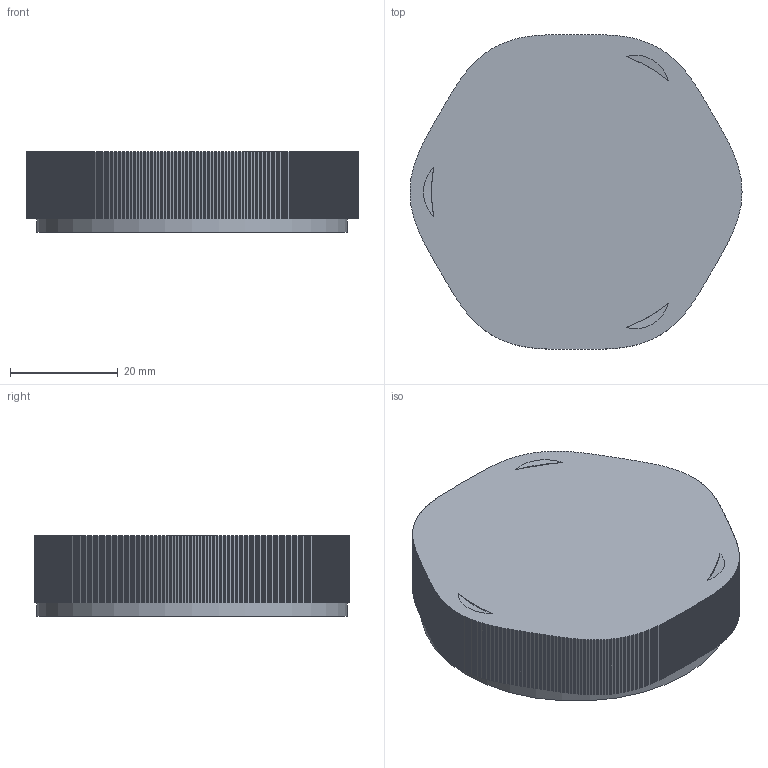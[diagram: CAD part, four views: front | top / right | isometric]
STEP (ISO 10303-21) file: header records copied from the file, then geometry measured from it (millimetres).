
FILE_DESCRIPTION(('Open CASCADE Model'),'2;1');
FILE_NAME('Open CASCADE Shape Model','2026-11-13T05:00:00',('Author'),( 'Open CASCADE'),'Open CASCADE STEP processor 7.9','Open CASCADE 7.9' ,'Unknown');
FILE_SCHEMA(('AUTOMOTIVE_DESIGN { 1 0 10303 214 1 1 1 1 }'));
Length unit declared in the file: millimetre
Products named in the file (1): Open CASCADE STEP translator 7.9 12
Bounding box: 61.6 x 58.4 x 15 mm (x, y, z)
Volume: 13996.9 mm3; surface area: 10954.8 mm2
Topology: 1 solids, 1 shells, 748 faces, 2214 edges, 1476 vertices
Faces by surface type: plane 735, cylinder 10, sphere 3
Full cylindrical faces by diameter (mm): 50 x1, 51.95 x1, 57.6 x1
Entity records: 53509 total; most frequent: CARTESIAN_POINT 9168, DIRECTION 8131, LINE 6577, VECTOR 6577, ORIENTED_EDGE 4428, PCURVE 4428, DEFINITIONAL_REPRESENTATION 4428, EDGE_CURVE 2214
